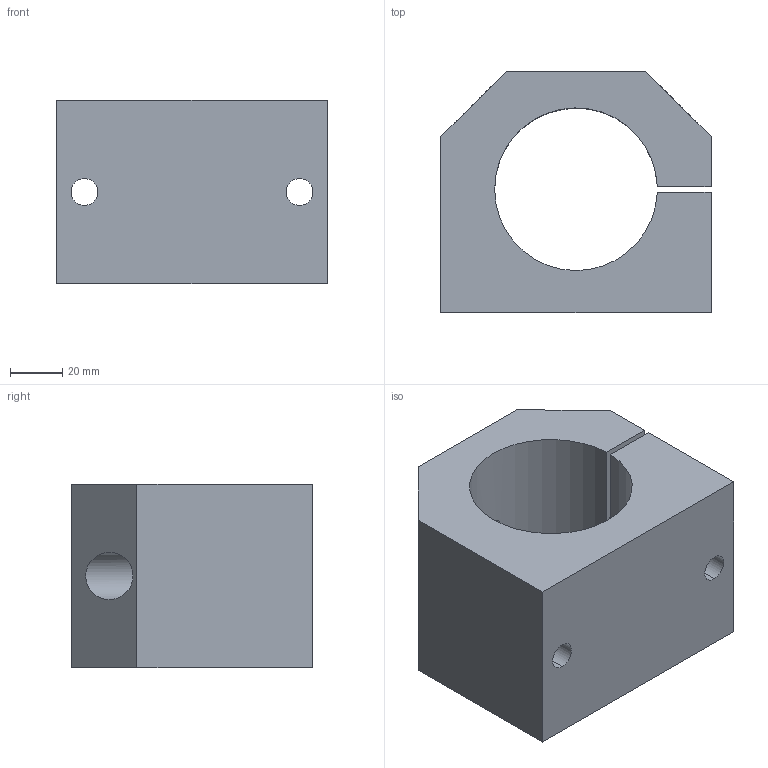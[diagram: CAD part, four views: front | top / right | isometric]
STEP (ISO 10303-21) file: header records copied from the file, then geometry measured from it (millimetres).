
FILE_DESCRIPTION (( 'STEP AP214' ), '1' );
FILE_NAME ('KGCE28 50.step', '2020-03-04T13:08:29', ( '' ), ( '' ), 'SwSTEP 2.0', 'SolidWorks 2019', '' );
FILE_SCHEMA (( 'AUTOMOTIVE_DESIGN' ));
Length unit declared in the file: millimetre
Products named in the file (1): KGCE28 50
Bounding box: 103 x 92 x 70 mm (x, y, z)
Volume: 364870.6 mm3; surface area: 62941.2 mm2
Topology: 1 solids, 1 shells, 41 faces, 104 edges, 66 vertices
Faces by surface type: cylinder 23, plane 14, cone 4
Entity records: 1444 total; most frequent: CARTESIAN_POINT 298, DIRECTION 210, ORIENTED_EDGE 200, EDGE_CURVE 100, AXIS2_PLACEMENT_3D 78, VERTEX_POINT 66, EDGE_LOOP 58, VECTOR 54
